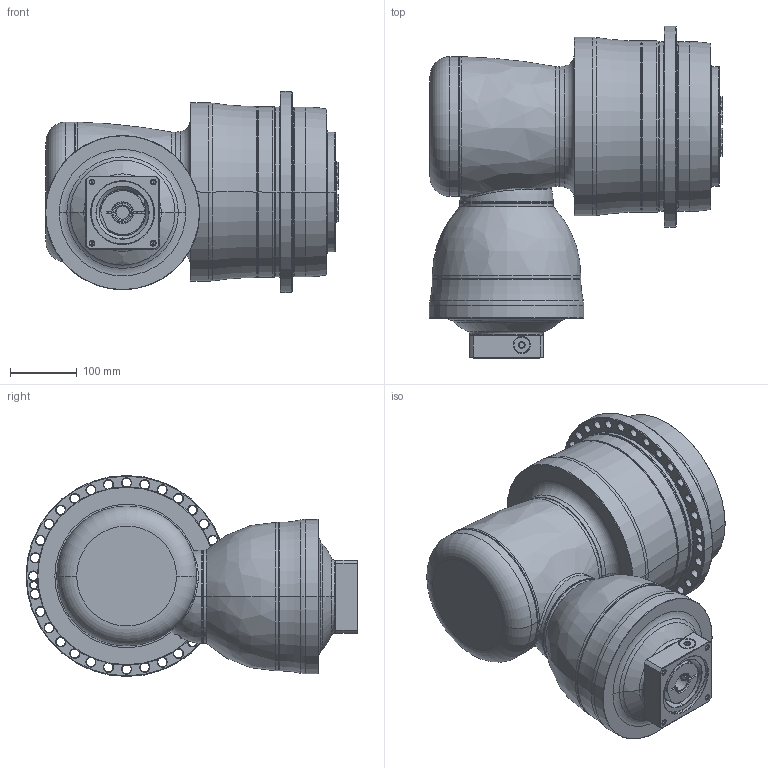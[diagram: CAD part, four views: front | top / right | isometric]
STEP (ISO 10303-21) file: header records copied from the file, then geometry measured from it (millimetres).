
FILE_DESCRIPTION((''),'2;1');
FILE_NAME('APCK255_4ST_28-P0409610201_ASM','2018-05-16T',('d01226'),(''),'PRO/ENGINEER BY PARAMETRIC TECHNOLOGY CORPORATION, 2008410','PRO/ENGINEER BY PARAMETRIC TECHNOLOGY CORPORATION, 2008410','');
FILE_SCHEMA(('CONFIG_CONTROL_DESIGN'));
Length unit declared in the file: millimetre
Products named in the file (13): P1008600002; P1832700001; P0278701003; P0359770103; P1211700001; P1315600001; P1007601001; P1317610101; P0409610201; P0503600010; P0912551001; 21711418017; APCK255_4ST_28-P0409610201_ASM
Assembly tree (12 placements, depth 2):
  APCK255_4ST_28-P0409610201_ASM
    P1008600002
    P1832700001
    P0278701003
    P0359770103
    P1211700001
    P1315600001
    P1007601001
    P1317610101
    P0409610201
    P0503600010
    P0912551001
    21711418017
Bounding box: 440.6 x 498.5 x 302 mm (x, y, z)
Volume: 23925039.6 mm3; surface area: 1383367.9 mm2
Topology: 13 solids, 25 shells, 813 faces, 1955 edges, 1190 vertices
Faces by surface type: cone 269, cylinder 240, plane 138, torus 129, bspline 35, sphere 2
Entity records: 31154 total; most frequent: CARTESIAN_POINT 11672, DIRECTION 4367, ORIENTED_EDGE 3832, EDGE_CURVE 1941, AXIS2_PLACEMENT_3D 1916, VERTEX_POINT 1190, CIRCLE 1101, EDGE_LOOP 933
